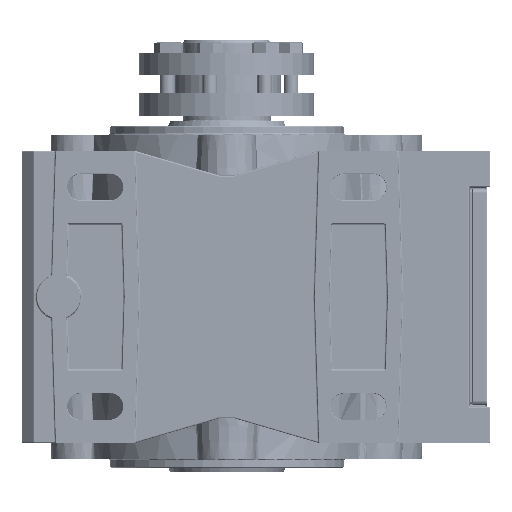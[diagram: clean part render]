
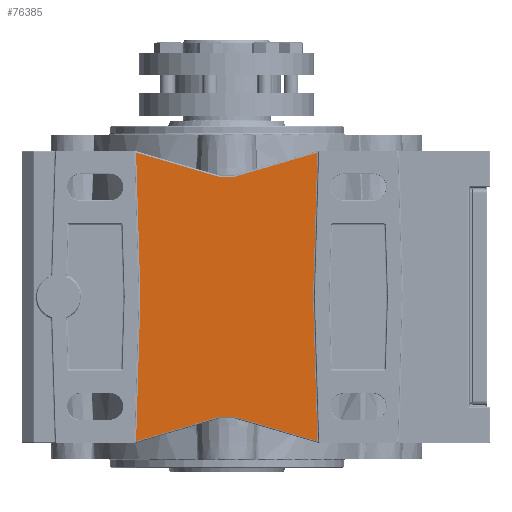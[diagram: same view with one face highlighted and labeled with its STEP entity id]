
A CAD part, left-side view. The second image highlights one B-rep face of the part: STEP entity #76385.
In plain terms, the highlighted planar face has unit normal (-1, 0, 0).
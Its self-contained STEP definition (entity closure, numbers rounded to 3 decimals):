
#70652=CARTESIAN_POINT('',(-69.0,-2.778,-62.561));
#70653=VERTEX_POINT('',#70652);
#70671=CARTESIAN_POINT('',(-69.0,-30.98,-70.826));
#70672=VERTEX_POINT('',#70671);
#70680=CARTESIAN_POINT('',(-69.0,-30.98,-70.826));
#70681=DIRECTION('',(0.0,0.96,0.281));
#70682=VECTOR('',#70681,29.388);
#70683=LINE('',#70680,#70682);
#70684=EDGE_CURVE('',#70672,#70653,#70683,.T.);
#70694=CARTESIAN_POINT('',(-69.0,-2.356,-62.5));
#70695=VERTEX_POINT('',#70694);
#70713=CARTESIAN_POINT('',(-69.0,-2.356,-64.));
#70714=DIRECTION('',(-1.0,0.,0.));
#70715=DIRECTION('',(0.,-0.142,0.99));
#70716=AXIS2_PLACEMENT_3D('',#70713,#70714,#70715);
#70717=CIRCLE('',#70716,1.5);
#70718=EDGE_CURVE('',#70653,#70695,#70717,.T.);
#70728=CARTESIAN_POINT('',(-69.0,2.356,-62.5));
#70729=VERTEX_POINT('',#70728);
#70746=CARTESIAN_POINT('',(-69.0,-2.356,-62.5));
#70747=DIRECTION('',(0.0,1.0,0.0));
#70748=VECTOR('',#70747,4.713);
#70749=LINE('',#70746,#70748);
#70750=EDGE_CURVE('',#70695,#70729,#70749,.T.);
#70760=CARTESIAN_POINT('',(-69.0,2.778,-62.561));
#70761=VERTEX_POINT('',#70760);
#70779=CARTESIAN_POINT('',(-69.0,2.356,-64.));
#70780=DIRECTION('',(-1.0,0.,0.));
#70781=DIRECTION('',(0.,0.142,0.99));
#70782=AXIS2_PLACEMENT_3D('',#70779,#70780,#70781);
#70783=CIRCLE('',#70782,1.5);
#70784=EDGE_CURVE('',#70729,#70761,#70783,.T.);
#70794=CARTESIAN_POINT('',(-69.,30.98,-70.826));
#70795=VERTEX_POINT('',#70794);
#70812=CARTESIAN_POINT('',(-69.0,2.778,-62.561));
#70813=DIRECTION('',(0.,0.96,-0.281));
#70814=VECTOR('',#70813,29.388);
#70815=LINE('',#70812,#70814);
#70816=EDGE_CURVE('',#70761,#70795,#70815,.T.);
#71105=CARTESIAN_POINT('',(-69.0,-29.501,-21.53));
#71106=VERTEX_POINT('',#71105);
#71114=CARTESIAN_POINT('',(-69.0,-29.501,-21.53));
#71115=DIRECTION('',(0.0,-0.03,-1.));
#71116=VECTOR('',#71115,49.319);
#71117=LINE('',#71114,#71116);
#71118=EDGE_CURVE('',#71106,#70672,#71117,.T.);
#71509=CARTESIAN_POINT('',(-69.0,2.778,19.561));
#71510=VERTEX_POINT('',#71509);
#71528=CARTESIAN_POINT('',(-69.,30.98,27.826));
#71529=VERTEX_POINT('',#71528);
#71537=CARTESIAN_POINT('',(-69.,30.98,27.826));
#71538=DIRECTION('',(0.,-0.96,-0.281));
#71539=VECTOR('',#71538,29.388);
#71540=LINE('',#71537,#71539);
#71541=EDGE_CURVE('',#71529,#71510,#71540,.T.);
#71551=CARTESIAN_POINT('',(-69.0,2.356,19.5));
#71552=VERTEX_POINT('',#71551);
#71570=CARTESIAN_POINT('',(-69.0,2.356,21.0));
#71571=DIRECTION('',(-1.0,0.,0.));
#71572=DIRECTION('',(0.,0.142,-0.99));
#71573=AXIS2_PLACEMENT_3D('',#71570,#71571,#71572);
#71574=CIRCLE('',#71573,1.5);
#71575=EDGE_CURVE('',#71510,#71552,#71574,.T.);
#71585=CARTESIAN_POINT('',(-69.0,-2.356,19.5));
#71586=VERTEX_POINT('',#71585);
#71603=CARTESIAN_POINT('',(-69.0,2.356,19.5));
#71604=DIRECTION('',(0.0,-1.0,0.0));
#71605=VECTOR('',#71604,4.713);
#71606=LINE('',#71603,#71605);
#71607=EDGE_CURVE('',#71552,#71586,#71606,.T.);
#71617=CARTESIAN_POINT('',(-69.0,-2.778,19.561));
#71618=VERTEX_POINT('',#71617);
#71636=CARTESIAN_POINT('',(-69.0,-2.356,21.0));
#71637=DIRECTION('',(-1.0,0.,0.));
#71638=DIRECTION('',(0.,-0.142,-0.99));
#71639=AXIS2_PLACEMENT_3D('',#71636,#71637,#71638);
#71640=CIRCLE('',#71639,1.5);
#71641=EDGE_CURVE('',#71586,#71618,#71640,.T.);
#71651=CARTESIAN_POINT('',(-69.0,-30.98,27.826));
#71652=VERTEX_POINT('',#71651);
#71669=CARTESIAN_POINT('',(-69.0,-2.778,19.561));
#71670=DIRECTION('',(0.0,-0.96,0.281));
#71671=VECTOR('',#71670,29.388);
#71672=LINE('',#71669,#71671);
#71673=EDGE_CURVE('',#71618,#71652,#71672,.T.);
#74366=CARTESIAN_POINT('',(-69.,29.5,-21.479));
#74367=VERTEX_POINT('',#74366);
#74375=CARTESIAN_POINT('',(-69.,29.5,-21.479));
#74376=DIRECTION('',(0.0,0.03,1.));
#74377=VECTOR('',#74376,49.328);
#74378=LINE('',#74375,#74377);
#74379=EDGE_CURVE('',#74367,#71529,#74378,.T.);
#74389=CARTESIAN_POINT('',(-69.,29.5,-21.521));
#74390=VERTEX_POINT('',#74389);
#74398=CARTESIAN_POINT('',(-69.,30.2,-21.5));
#74399=DIRECTION('',(-1.0,0.0,0.0));
#74400=DIRECTION('',(0.0,-1.0,0.0));
#74401=AXIS2_PLACEMENT_3D('',#74398,#74399,#74400);
#74402=CIRCLE('',#74401,0.7);
#74403=EDGE_CURVE('',#74390,#74367,#74402,.T.);
#74416=CARTESIAN_POINT('',(-69.,30.98,-70.826));
#74417=DIRECTION('',(0.0,-0.03,1.));
#74418=VECTOR('',#74417,49.328);
#74419=LINE('',#74416,#74418);
#74420=EDGE_CURVE('',#70795,#74390,#74419,.T.);
#76324=CARTESIAN_POINT('',(-69.0,-29.501,-21.47));
#76325=VERTEX_POINT('',#76324);
#76333=CARTESIAN_POINT('',(-69.0,-30.5,-21.5));
#76334=DIRECTION('',(-1.0,0.0,0.0));
#76335=DIRECTION('',(0.0,1.0,0.0));
#76336=AXIS2_PLACEMENT_3D('',#76333,#76334,#76335);
#76337=CIRCLE('',#76336,1.0);
#76338=EDGE_CURVE('',#76325,#71106,#76337,.T.);
#76351=CARTESIAN_POINT('',(-69.0,-30.98,27.826));
#76352=DIRECTION('',(0.0,0.03,-1.));
#76353=VECTOR('',#76352,49.319);
#76354=LINE('',#76351,#76353);
#76355=EDGE_CURVE('',#71652,#76325,#76354,.T.);
#76362=CARTESIAN_POINT('',(-69.0,0.,3.836));
#76363=DIRECTION('',(1.0,0.0,0.0));
#76364=DIRECTION('',(0.0,0.0,-1.0));
#76365=AXIS2_PLACEMENT_3D('',#76362,#76363,#76364);
#76366=PLANE('',#76365);
#76367=ORIENTED_EDGE('',*,*,#70684,.F.);
#76368=ORIENTED_EDGE('',*,*,#71118,.F.);
#76369=ORIENTED_EDGE('',*,*,#76338,.F.);
#76370=ORIENTED_EDGE('',*,*,#76355,.F.);
#76371=ORIENTED_EDGE('',*,*,#71673,.F.);
#76372=ORIENTED_EDGE('',*,*,#71641,.F.);
#76373=ORIENTED_EDGE('',*,*,#71607,.F.);
#76374=ORIENTED_EDGE('',*,*,#71575,.F.);
#76375=ORIENTED_EDGE('',*,*,#71541,.F.);
#76376=ORIENTED_EDGE('',*,*,#74379,.F.);
#76377=ORIENTED_EDGE('',*,*,#74403,.F.);
#76378=ORIENTED_EDGE('',*,*,#74420,.F.);
#76379=ORIENTED_EDGE('',*,*,#70816,.F.);
#76380=ORIENTED_EDGE('',*,*,#70784,.F.);
#76381=ORIENTED_EDGE('',*,*,#70750,.F.);
#76382=ORIENTED_EDGE('',*,*,#70718,.F.);
#76383=EDGE_LOOP('',(#76367,#76368,#76369,#76370,#76371,#76372,#76373,#76374,#76375,#76376,#76377,#76378,#76379,#76380,#76381,#76382));
#76384=FACE_OUTER_BOUND('',#76383,.T.);
#76385=ADVANCED_FACE('',(#76384),#76366,.F.);
